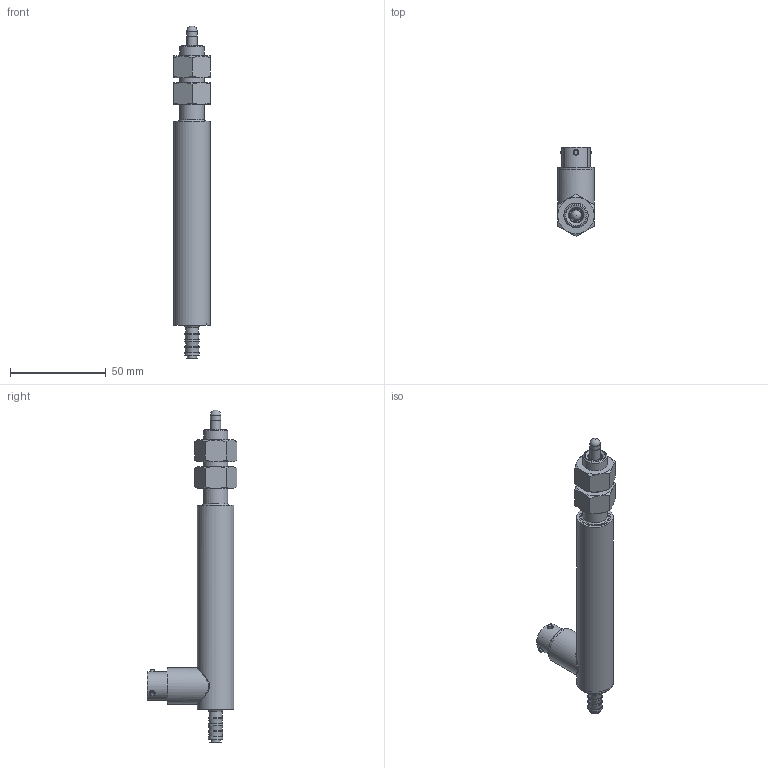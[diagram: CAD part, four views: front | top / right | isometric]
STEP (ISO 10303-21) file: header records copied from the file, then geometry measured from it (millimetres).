
FILE_DESCRIPTION(/* description */ (''),/* implementation_level */ '2;1');
FILE_NAME(/* name */ 'F:\GHRA SERIES\GHRA-750-D-XXXX\GHRA-750-D-250\GHRA-750-D-250 Assembly.iam.stp',/* time_stamp */ '2021-11-17T12:46:44-05:00',/* author */ ('J. Nielson'),/* organization */ (''),/* preprocessor_version */ 'ST-DEVELOPER v18.1',/* originating_system */ 'Autodesk Inventor 2022',/* authorisation */ '');
FILE_SCHEMA (('AUTOMOTIVE_DESIGN { 1 0 10303 214 3 1 1 }'));
Length unit declared in the file: inch
Products named in the file (4): GHRA-750-A-250 Assembly; GHRA-750-D-250 HOUSING_SW; GHRA-750-D-250 SHAFT_SW; AS 2465 - 1/2  UNF
Assembly tree (4 placements, depth 2):
  GHRA-750-A-250 Assembly
    GHRA-750-D-250 HOUSING_SW
    GHRA-750-D-250 SHAFT_SW
    AS 2465 - 1/2  UNF  x2
Bounding box: 19.05 x 46.71 x 173.51 mm (x, y, z)
Volume: 22575 mm3; surface area: 26040.9 mm2
Topology: 17 solids, 17 shells, 222 faces, 441 edges, 283 vertices
Faces by surface type: plane 88, cylinder 74, cone 47, bspline 7, torus 5, sphere 1
Full cylindrical faces by diameter (mm): 0.762 x12, 2.032 x3, 2.845 x3, 3.048 x3, 4.762 x1, 4.826 x2, 5.334 x4, 5.397 x1, 6 x1, 6.731 x1, 7.493 x4, 7.671 x2, 7.874 x1, 11.328 x2, 12.7 x1, 13.208 x1, 14.986 x1, 15.748 x2, 16.51 x1, 17.018 x1, 17.069 x1, 17.78 x1, 18.034 x1, 18.415 x6, 19.05 x2
Entity records: 7631 total; most frequent: CARTESIAN_POINT 3011, DIRECTION 946, ORIENTED_EDGE 778, AXIS2_PLACEMENT_3D 405, EDGE_CURVE 389, EDGE_LOOP 257, VERTEX_POINT 254, CIRCLE 205
